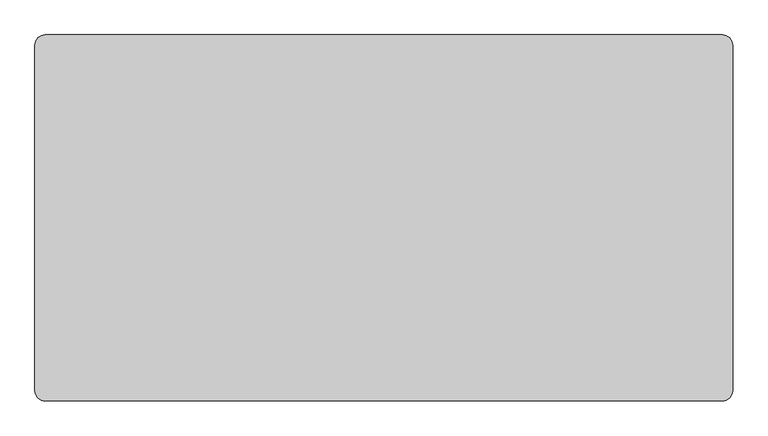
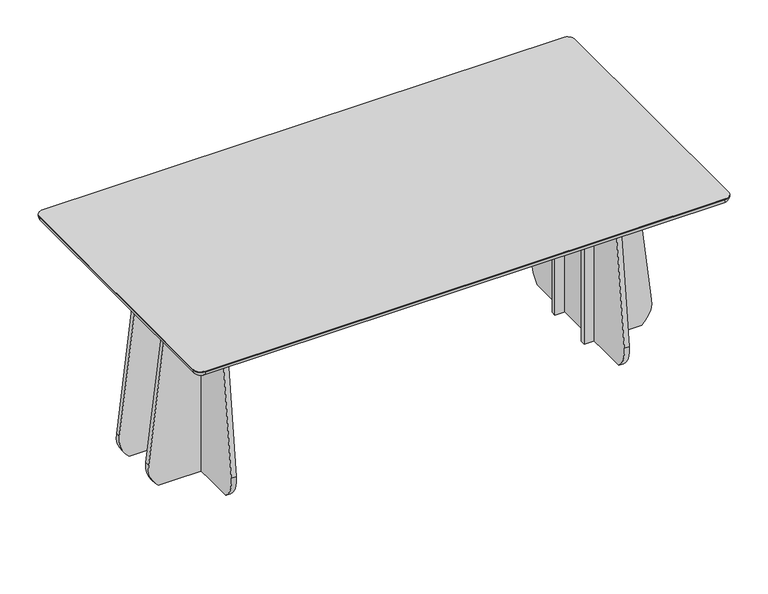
"""IFC4 building model written with IfcOpenShell, lengths in millimetres: furniture geometry, Lundbergs Möbler - Funghi Largo - Table - Rectangular - 200x105 - H73 : Lundbergs Möbler - Funghi Largo - Table - Rectangular - 200x105 - H73."""

from ifc_helpers import new_model, si_unit, point, frame, frame_2d, origin, place, context, project, spatial, polyline, circle_curve, ellipse_curve, trimmed, segment, composite_curve, outline, extrude, source, transform, mapped, element, save
from ifc_brep_helpers import plane_surface, cylinder_surface, revolved_surface, advanced_brep


def furniture_52ca518f(model_context):
    return source(origin(), model_context, "Body", "SolidModel", [
        advanced_brep(
        [(-980.0, 495.0, 706.0), (-1000.0, 495.0, 726.0), (-970.0, 525.0, 726.0), (-970.0, 505.0, 706.0), (-980.0, -495.0, 706.0), (-1000.0, -495.0, 726.0), (-970.0, -505.0, 706.0), (-970.0, -525.0, 726.0), (970.0, -505.0, 706.0), (970.0, -525.0, 726.0), (980.0, -495.0, 706.0), (1000.0, -495.0, 726.0), (980.0, 495.0, 706.0), (1000.0, 495.0, 726.0), (970.0, 505.0, 706.0), (970.0, 525.0, 726.0), (970.0, 525.0, 730.0), (-970.0, 525.0, 730.0), (-1000.0, 495.0, 730.0), (-1000.0, -495.0, 730.0), (-970.0, -525.0, 730.0), (970.0, -525.0, 730.0), (1000.0, -495.0, 730.0), (1000.0, 495.0, 730.0)],
        [
            (0, 1, circle_curve(frame((-980.0, 495.0, 726.0), z_axis=(0.0, 1.0, 0.0), x_axis=(1.0, 0.0, 0.0)), 20.0)),
            (1, 2, circle_curve(frame((-970.0, 495.0, 726.0), z_axis=(0.0, 0.0, -1.0), x_axis=(0.0, 1.0, 0.0)), 30.0)),
            (2, 3, circle_curve(frame((-970.0, 505.0, 726.0), z_axis=(-1.0, 0.0, 0.0), x_axis=(0.0, -1.0, 0.0)), 20.0)),
            (3, 0, circle_curve(frame((-970.0, 495.0, 706.0), z_axis=(0.0, 0.0, 1.0), x_axis=(0.0, 1.0, 0.0)), 10.0)),
            (0, 4),
            (4, 5, circle_curve(frame((-980.0, -495.0, 726.0), z_axis=(0.0, 1.0, 0.0), x_axis=(1.0, 0.0, 0.0)), 20.0)),
            (5, 1),
            (4, 6, circle_curve(frame((-970.0, -495.0, 706.0), z_axis=(0.0, 0.0, 1.0), x_axis=(-1.0, 0.0, 0.0)), 10.0)),
            (6, 7, circle_curve(frame((-970.0, -505.0, 726.0), z_axis=(-1.0, 0.0, 0.0), x_axis=(0.0, 1.0, 0.0)), 20.0)),
            (7, 5, circle_curve(frame((-970.0, -495.0, 726.0), z_axis=(0.0, 0.0, -1.0), x_axis=(-1.0, 0.0, 0.0)), 30.0)),
            (6, 8),
            (8, 9, circle_curve(frame((970.0, -505.0, 726.0), z_axis=(-1.0, 0.0, 0.0), x_axis=(0.0, 1.0, 0.0)), 20.0)),
            (9, 7),
            (8, 10, circle_curve(frame((970.0, -495.0, 706.0), z_axis=(0.0, 0.0, 1.0), x_axis=(0.0, -1.0, 0.0)), 10.0)),
            (10, 11, circle_curve(frame((980.0, -495.0, 726.0), z_axis=(0.0, -1.0, 0.0), x_axis=(-1.0, 0.0, 0.0)), 20.0)),
            (11, 9, circle_curve(frame((970.0, -495.0, 726.0), z_axis=(0.0, 0.0, -1.0), x_axis=(0.0, -1.0, 0.0)), 30.0)),
            (10, 12),
            (12, 13, circle_curve(frame((980.0, 495.0, 726.0), z_axis=(0.0, -1.0, 0.0), x_axis=(-1.0, 0.0, 0.0)), 20.0)),
            (13, 11),
            (12, 14, circle_curve(frame((970.0, 495.0, 706.0), z_axis=(0.0, 0.0, 1.0), x_axis=(1.0, 0.0, 0.0)), 10.0)),
            (14, 15, circle_curve(frame((970.0, 505.0, 726.0), z_axis=(1.0, 0.0, 0.0), x_axis=(0.0, -1.0, 0.0)), 20.0)),
            (15, 13, circle_curve(frame((970.0, 495.0, 726.0), z_axis=(0.0, 0.0, -1.0), x_axis=(1.0, 0.0, 0.0)), 30.0)),
            (2, 15),
            (14, 3),
            (16, 17),
            (17, 18, circle_curve(frame((-970.0, 495.0, 730.0), z_axis=(0.0, 0.0, 1.0), x_axis=(0.0, 1.0, 0.0)), 30.0)),
            (18, 19),
            (19, 20, circle_curve(frame((-970.0, -495.0, 730.0), z_axis=(0.0, 0.0, 1.0), x_axis=(0.0, 1.0, 0.0)), 30.0)),
            (20, 21),
            (21, 22, circle_curve(frame((970.0, -495.0, 730.0), z_axis=(0.0, 0.0, 1.0), x_axis=(0.0, 1.0, 0.0)), 30.0)),
            (22, 23),
            (23, 16, circle_curve(frame((970.0, 495.0, 730.0), z_axis=(0.0, 0.0, 1.0), x_axis=(0.0, 1.0, 0.0)), 30.0)),
            (16, 15),
            (2, 17),
            (1, 18),
            (5, 19),
            (7, 20),
            (9, 21),
            (11, 22),
            (13, 23),
        ],
        [
            revolved_surface(trimmed(ellipse_curve(frame((-970.0, 505.0, 726.0), z_axis=(1.0, 0.0, 0.0), x_axis=(0.0, -1.0, 0.0)), 20.0, 20.0), [point((-970.0, 505.0, 706.0))], [point((-970.0, 525.0, 726.0))], True, "CARTESIAN"), (-970.0, 495.0, 0.0), (0.0, 0.0, 1.0)),
            cylinder_surface(frame((-980.0, 495.0, 726.0), z_axis=(0.0, -1.0, 0.0), x_axis=(1.0, 0.0, 0.0)), 20.0),
            revolved_surface(trimmed(ellipse_curve(frame((-980.0, -495.0, 726.0), z_axis=(0.0, 1.0, 0.0), x_axis=(1.0, 0.0, 0.0)), 20.0, 20.0), [point((-980.0, -495.0, 706.0))], [point((-1000.0, -495.0, 726.0))], True, "CARTESIAN"), (-970.0, -495.0, 0.0), (0.0, 0.0, 1.0)),
            cylinder_surface(frame((-970.0, -505.0, 726.0), z_axis=(1.0, 0.0, 0.0), x_axis=(0.0, 1.0, 0.0)), 20.0),
            revolved_surface(trimmed(ellipse_curve(frame((970.0, -505.0, 726.0), z_axis=(-1.0, 0.0, 0.0), x_axis=(0.0, 1.0, 0.0)), 20.0, 20.0), [point((970.0, -505.0, 706.0))], [point((970.0, -525.0, 726.0))], True, "CARTESIAN"), (970.0, -495.0, 0.0), (0.0, 0.0, 1.0)),
            cylinder_surface(frame((980.0, -495.0, 726.0), z_axis=(0.0, 1.0, 0.0), x_axis=(-1.0, 0.0, 0.0)), 20.0),
            revolved_surface(trimmed(ellipse_curve(frame((980.0, 495.0, 726.0), z_axis=(0.0, -1.0, 0.0), x_axis=(-1.0, 0.0, 0.0)), 20.0, 20.0), [point((980.0, 495.0, 706.0))], [point((1000.0, 495.0, 726.0))], True, "CARTESIAN"), (970.0, 495.0, 0.0), (0.0, 0.0, 1.0)),
            cylinder_surface(frame((970.0, 505.0, 726.0), z_axis=(-1.0, 0.0, 0.0), x_axis=(0.0, -1.0, 0.0)), 20.0),
            plane_surface(frame((-970.0, 525.0, 730.0), z_axis=(0.0, 0.0, 1.0), x_axis=(-1.0, 0.0, 0.0))),
            plane_surface(frame((-970.0, 525.0, 706.0), z_axis=(0.0, 0.0, -1.0), x_axis=(1.0, 0.0, 0.0))),
            plane_surface(frame((970.0, 525.0, 730.0), z_axis=(0.0, 1.0, 0.0), x_axis=(0.0, 0.0, -1.0))),
            cylinder_surface(frame((-970.0, 495.0, 706.0), z_axis=(0.0, 0.0, 1.0), x_axis=(0.0, 1.0, 0.0)), 30.0),
            plane_surface(frame((-1000.0, 495.0, 730.0), z_axis=(-1.0, 0.0, 0.0), x_axis=(0.0, 0.0, -1.0))),
            cylinder_surface(frame((-970.0, -495.0, 706.0), z_axis=(0.0, 0.0, 1.0), x_axis=(0.0, 1.0, 0.0)), 30.0),
            plane_surface(frame((-970.0, -525.0, 730.0), z_axis=(0.0, -1.0, 0.0), x_axis=(0.0, 0.0, -1.0))),
            cylinder_surface(frame((970.0, -495.0, 706.0), z_axis=(0.0, 0.0, 1.0), x_axis=(0.0, 1.0, 0.0)), 30.0),
            plane_surface(frame((1000.0, -495.0, 730.0), z_axis=(1.0, 0.0, 0.0), x_axis=(0.0, 0.0, -1.0))),
            cylinder_surface(frame((970.0, 495.0, 706.0), z_axis=(0.0, 0.0, 1.0), x_axis=(0.0, 1.0, 0.0)), 30.0),
        ],
        [
            (0, [[1, 2, 3, 4]]),
            (1, [[-1, 5, 6, 7]]),
            (2, [[-6, 8, 9, 10]]),
            (3, [[-9, 11, 12, 13]]),
            (4, [[-12, 14, 15, 16]]),
            (5, [[-15, 17, 18, 19]]),
            (6, [[-18, 20, 21, 22]]),
            (7, [[-3, 23, -21, 24]]),
            (8, [[25, 26, 27, 28, 29, 30, 31, 32]]),
            (9, [[-4, -24, -20, -17, -14, -11, -8, -5]]),
            (10, [[-25, 33, -23, 34]]),
            (11, [[-26, -34, -2, 35]]),
            (12, [[-27, -35, -7, 36]]),
            (13, [[-28, -36, -10, 37]]),
            (14, [[-29, -37, -13, 38]]),
            (15, [[-30, -38, -16, 39]]),
            (16, [[-31, -39, -19, 40]]),
            (17, [[-32, -40, -22, -33]]),
        ],
    ),
        extrude(outline(composite_curve([segment(trimmed(circle_curve(frame_2d((-781.25, 178.0)), 2.0), [point((-781.25, 180.0))], [point((-779.25, 178.0))], False, "CARTESIAN"), True, "CONTINUOUS"), segment(polyline([(-779.25, 178.0), (-779.25, -178.0)]), True, "CONTINUOUS"), segment(trimmed(circle_curve(frame_2d((-781.25, -178.0)), 2.0), [point((-779.25, -178.0))], [point((-781.25, -180.0))], False, "CARTESIAN"), True, "CONTINUOUS"), segment(polyline([(-781.25, -180.0), (-817.25, -180.0)]), True, "CONTINUOUS"), segment(trimmed(circle_curve(frame_2d((-817.25, -178.0)), 2.0), [point((-817.25, -180.0))], [point((-819.25, -178.0))], False, "CARTESIAN"), True, "CONTINUOUS"), segment(polyline([(-819.25, -178.0), (-819.25, 178.0)]), True, "CONTINUOUS"), segment(trimmed(circle_curve(frame_2d((-817.25, 178.0)), 2.0), [point((-819.25, 178.0))], [point((-817.25, 180.0))], False, "CARTESIAN"), True, "CONTINUOUS"), segment(polyline([(-817.25, 180.0), (-781.25, 180.0)]), True, "CONTINUOUS")], self_intersect=False)), frame((0.0, 0.0, 686.0), z_axis=(0.0, 0.0, 1.0), x_axis=(1.0, 0.0, 0.0)), (0.0, 0.0, 1.0), 20.0),
        extrude(outline(composite_curve([segment(trimmed(circle_curve(frame_2d((-661.25, 176.5)), 3.5), [point((-661.25, 180.0))], [point((-657.75, 176.5))], False, "CARTESIAN"), True, "CONTINUOUS"), segment(polyline([(-657.75, 176.5), (-657.75, 143.5)]), True, "CONTINUOUS"), segment(trimmed(circle_curve(frame_2d((-661.25, 143.5)), 3.5), [point((-657.75, 143.5))], [point((-661.25, 140.0))], False, "CARTESIAN"), True, "CONTINUOUS"), segment(polyline([(-661.25, 140.0), (-751.25, 140.0)]), True, "CONTINUOUS"), segment(trimmed(circle_curve(frame_2d((-751.25, 143.5)), 3.5), [point((-751.25, 140.0))], [point((-754.75, 143.5))], False, "CARTESIAN"), True, "CONTINUOUS"), segment(polyline([(-754.75, 143.5), (-754.75, 176.5)]), True, "CONTINUOUS"), segment(trimmed(circle_curve(frame_2d((-751.25, 176.5)), 3.5), [point((-754.75, 176.5))], [point((-751.25, 180.0))], False, "CARTESIAN"), True, "CONTINUOUS"), segment(polyline([(-751.25, 180.0), (-661.25, 180.0)]), True, "CONTINUOUS")], self_intersect=False)), frame((0.0, 0.0, 686.0), z_axis=(0.0, 0.0, 1.0), x_axis=(1.0, 0.0, 0.0)), (0.0, 0.0, 1.0), 20.0),
        extrude(outline(composite_curve([segment(trimmed(circle_curve(frame_2d((-661.25, -143.5)), 3.5), [point((-661.25, -140.0))], [point((-657.75, -143.5))], False, "CARTESIAN"), True, "CONTINUOUS"), segment(polyline([(-657.75, -143.5), (-657.75, -176.5)]), True, "CONTINUOUS"), segment(trimmed(circle_curve(frame_2d((-661.25, -176.5)), 3.5), [point((-657.75, -176.5))], [point((-661.25, -180.0))], False, "CARTESIAN"), True, "CONTINUOUS"), segment(polyline([(-661.25, -180.0), (-751.25, -180.0)]), True, "CONTINUOUS"), segment(trimmed(circle_curve(frame_2d((-751.25, -176.5)), 3.5), [point((-751.25, -180.0))], [point((-754.75, -176.5))], False, "CARTESIAN"), True, "CONTINUOUS"), segment(polyline([(-754.75, -176.5), (-754.75, -143.5)]), True, "CONTINUOUS"), segment(trimmed(circle_curve(frame_2d((-751.25, -143.5)), 3.5), [point((-754.75, -143.5))], [point((-751.25, -140.0))], False, "CARTESIAN"), True, "CONTINUOUS"), segment(polyline([(-751.25, -140.0), (-661.25, -140.0)]), True, "CONTINUOUS")], self_intersect=False)), frame((0.0, 0.0, 686.0), z_axis=(0.0, 0.0, 1.0), x_axis=(1.0, 0.0, 0.0)), (0.0, 0.0, 1.0), 20.0),
        extrude(outline(composite_curve([segment(trimmed(circle_curve(frame_2d((200.0, 78.0350603)), 100.0), [point((299.2807726, 90.0070355))], [point((262.5342255, 0.0))], False, "CARTESIAN"), True, "CONTINUOUS"), segment(polyline([(262.5342255, 0.0), (-262.5342255, 0.0)]), True, "CONTINUOUS"), segment(trimmed(circle_curve(frame_2d((-200.0, 78.0350603)), 100.0), [point((-262.5342255, 0.0))], [point((-299.2807726, 90.0070355))], False, "CARTESIAN"), True, "CONTINUOUS"), segment(polyline([(-299.2807726, 90.0070355), (-224.9955121, 706.0372169), (224.9955121, 706.0372169), (299.2807726, 90.0070355)]), True, "CONTINUOUS")], self_intersect=False)), frame((-742.75, 0.0, 0.0), z_axis=(1.0, 0.0, 0.0), x_axis=(0.0, 1.0, 0.0)), (0.0, 0.0, 1.0), 18.5),
        extrude(outline(composite_curve([segment(trimmed(circle_curve(frame_2d((78.0350603, -839.25)), 100.0), [point((90.0070355, -938.5307726))], [point((0.0, -901.7842255))], False, "CARTESIAN"), True, "CONTINUOUS"), segment(polyline([(0.0, -901.7842255), (0.0, -687.25), (706.0372169, -687.25), (706.0372169, -864.2455121), (90.0070355, -938.5307726)]), True, "CONTINUOUS")], self_intersect=False)), frame((0.0, 85.5, 0.0), z_axis=(0.0, 1.0, 0.0), x_axis=(0.0, 0.0, 1.0)), (0.0, 0.0, 1.0), 18.0),
        extrude(outline(composite_curve([segment(trimmed(circle_curve(frame_2d((78.0350603, -839.25)), 100.0), [point((90.0070355, -938.5307726))], [point((0.0, -901.7842255))], False, "CARTESIAN"), True, "CONTINUOUS"), segment(polyline([(0.0, -901.7842255), (0.0, -687.25), (706.0372169, -687.25), (706.0372169, -864.2455121), (90.0070355, -938.5307726)]), True, "CONTINUOUS")], self_intersect=False)), frame((0.0, -103.5, 0.0), z_axis=(0.0, 1.0, 0.0), x_axis=(0.0, 0.0, 1.0)), (0.0, 0.0, 1.0), 18.0),
        extrude(outline(composite_curve([segment(polyline([(781.25, 180.0), (817.25, 180.0)]), True, "CONTINUOUS"), segment(trimmed(circle_curve(frame_2d((817.25, 178.0)), 2.0), [point((817.25, 180.0))], [point((819.25, 178.0))], False, "CARTESIAN"), True, "CONTINUOUS"), segment(polyline([(819.25, 178.0), (819.25, -178.0)]), True, "CONTINUOUS"), segment(trimmed(circle_curve(frame_2d((817.25, -178.0)), 2.0), [point((819.25, -178.0))], [point((817.25, -180.0))], False, "CARTESIAN"), True, "CONTINUOUS"), segment(polyline([(817.25, -180.0), (781.25, -180.0)]), True, "CONTINUOUS"), segment(trimmed(circle_curve(frame_2d((781.25, -178.0)), 2.0), [point((781.25, -180.0))], [point((779.25, -178.0))], False, "CARTESIAN"), True, "CONTINUOUS"), segment(polyline([(779.25, -178.0), (779.25, 178.0)]), True, "CONTINUOUS"), segment(trimmed(circle_curve(frame_2d((781.25, 178.0)), 2.0), [point((779.25, 178.0))], [point((781.25, 180.0))], False, "CARTESIAN"), True, "CONTINUOUS")], self_intersect=False)), frame((0.0, 0.0, 686.0), z_axis=(0.0, 0.0, 1.0), x_axis=(1.0, 0.0, 0.0)), (0.0, 0.0, 1.0), 20.0),
        extrude(outline(composite_curve([segment(polyline([(661.25, 180.0), (751.25, 180.0)]), True, "CONTINUOUS"), segment(trimmed(circle_curve(frame_2d((751.25, 176.5)), 3.5), [point((751.25, 180.0))], [point((754.75, 176.5))], False, "CARTESIAN"), True, "CONTINUOUS"), segment(polyline([(754.75, 176.5), (754.75, 143.5)]), True, "CONTINUOUS"), segment(trimmed(circle_curve(frame_2d((751.25, 143.5)), 3.5), [point((754.75, 143.5))], [point((751.25, 140.0))], False, "CARTESIAN"), True, "CONTINUOUS"), segment(polyline([(751.25, 140.0), (661.25, 140.0)]), True, "CONTINUOUS"), segment(trimmed(circle_curve(frame_2d((661.25, 143.5)), 3.5), [point((661.25, 140.0))], [point((657.75, 143.5))], False, "CARTESIAN"), True, "CONTINUOUS"), segment(polyline([(657.75, 143.5), (657.75, 176.5)]), True, "CONTINUOUS"), segment(trimmed(circle_curve(frame_2d((661.25, 176.5)), 3.5), [point((657.75, 176.5))], [point((661.25, 180.0))], False, "CARTESIAN"), True, "CONTINUOUS")], self_intersect=False)), frame((0.0, 0.0, 686.0), z_axis=(0.0, 0.0, 1.0), x_axis=(1.0, 0.0, 0.0)), (0.0, 0.0, 1.0), 20.0),
        extrude(outline(composite_curve([segment(polyline([(661.25, -140.0), (751.25, -140.0)]), True, "CONTINUOUS"), segment(trimmed(circle_curve(frame_2d((751.25, -143.5)), 3.5), [point((751.25, -140.0))], [point((754.75, -143.5))], False, "CARTESIAN"), True, "CONTINUOUS"), segment(polyline([(754.75, -143.5), (754.75, -176.5)]), True, "CONTINUOUS"), segment(trimmed(circle_curve(frame_2d((751.25, -176.5)), 3.5), [point((754.75, -176.5))], [point((751.25, -180.0))], False, "CARTESIAN"), True, "CONTINUOUS"), segment(polyline([(751.25, -180.0), (661.25, -180.0)]), True, "CONTINUOUS"), segment(trimmed(circle_curve(frame_2d((661.25, -176.5)), 3.5), [point((661.25, -180.0))], [point((657.75, -176.5))], False, "CARTESIAN"), True, "CONTINUOUS"), segment(polyline([(657.75, -176.5), (657.75, -143.5)]), True, "CONTINUOUS"), segment(trimmed(circle_curve(frame_2d((661.25, -143.5)), 3.5), [point((657.75, -143.5))], [point((661.25, -140.0))], False, "CARTESIAN"), True, "CONTINUOUS")], self_intersect=False)), frame((0.0, 0.0, 686.0), z_axis=(0.0, 0.0, 1.0), x_axis=(1.0, 0.0, 0.0)), (0.0, 0.0, 1.0), 20.0),
        extrude(outline(composite_curve([segment(trimmed(circle_curve(frame_2d((200.0, 78.0350603)), 100.0), [point((299.2807726, 90.0070355))], [point((262.5342255, 0.0))], False, "CARTESIAN"), True, "CONTINUOUS"), segment(polyline([(262.5342255, 0.0), (-262.5342255, 0.0)]), True, "CONTINUOUS"), segment(trimmed(circle_curve(frame_2d((-200.0, 78.0350603)), 100.0), [point((-262.5342255, 0.0))], [point((-299.2807726, 90.0070355))], False, "CARTESIAN"), True, "CONTINUOUS"), segment(polyline([(-299.2807726, 90.0070355), (-224.9955121, 706.0372169), (224.9955121, 706.0372169), (299.2807726, 90.0070355)]), True, "CONTINUOUS")], self_intersect=False)), frame((724.25, 0.0, 0.0), z_axis=(1.0, 0.0, 0.0), x_axis=(0.0, 1.0, 0.0)), (0.0, 0.0, 1.0), 18.5),
        extrude(outline(composite_curve([segment(polyline([(90.0070355, 938.5307726), (706.0372169, 864.2455121), (706.0372169, 687.25), (0.0, 687.25), (0.0, 901.7842255)]), True, "CONTINUOUS"), segment(trimmed(circle_curve(frame_2d((78.0350603, 839.25)), 100.0), [point((0.0, 901.7842255))], [point((90.0070355, 938.5307726))], False, "CARTESIAN"), True, "CONTINUOUS")], self_intersect=False)), frame((0.0, 85.5, 0.0), z_axis=(0.0, 1.0, 0.0), x_axis=(0.0, 0.0, 1.0)), (0.0, 0.0, 1.0), 18.0),
        extrude(outline(composite_curve([segment(polyline([(90.0070355, 938.5307726), (706.0372169, 864.2455121), (706.0372169, 687.25), (0.0, 687.25), (0.0, 901.7842255)]), True, "CONTINUOUS"), segment(trimmed(circle_curve(frame_2d((78.0350603, 839.25)), 100.0), [point((0.0, 901.7842255))], [point((90.0070355, 938.5307726))], False, "CARTESIAN"), True, "CONTINUOUS")], self_intersect=False)), frame((0.0, -103.5, 0.0), z_axis=(0.0, 1.0, 0.0), x_axis=(0.0, 0.0, 1.0)), (0.0, 0.0, 1.0), 18.0),
    ])


if __name__ == "__main__":
    model = new_model("IFC4")
    model_context = context("Model", 3, world=origin())
    ifc_project = project(units=[si_unit("LENGTHUNIT", "METRE", prefix="MILLI")], contexts=[model_context])
    site = spatial("IfcSite", under=ifc_project)
    building = spatial("IfcBuilding", under=site)
    placement = place(None, origin())
    furniture_shape = furniture_52ca518f(model_context)
    element("IfcFurniture", 1, ObjectType="Lundbergs Möbler - Funghi Largo - Table - Rectangular - 200x105 - H73 : Lundbergs Möbler - Funghi Largo - Table - Rectangular - 200x105 - H73", at=placement, inside=building, context=model_context, shape_type="MappedRepresentation", body=[
        mapped(furniture_shape, transform((0.0, 0.0, 0.0), x_axis=(1.0, 0.0, 0.0), y_axis=(0.0, 1.0, 0.0), z_axis=(0.0, 0.0, 1.0))),
    ])
    save(model, "model.ifc")
